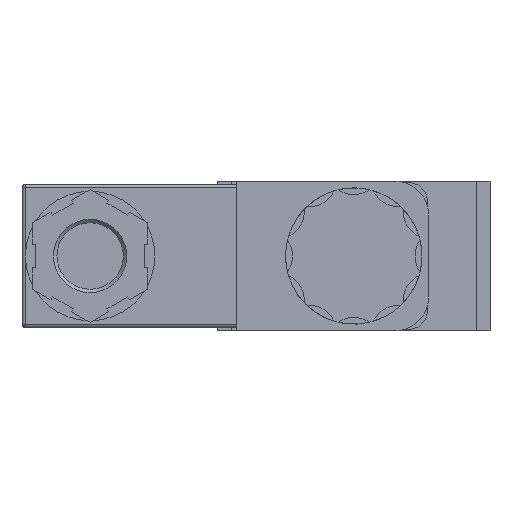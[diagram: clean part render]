
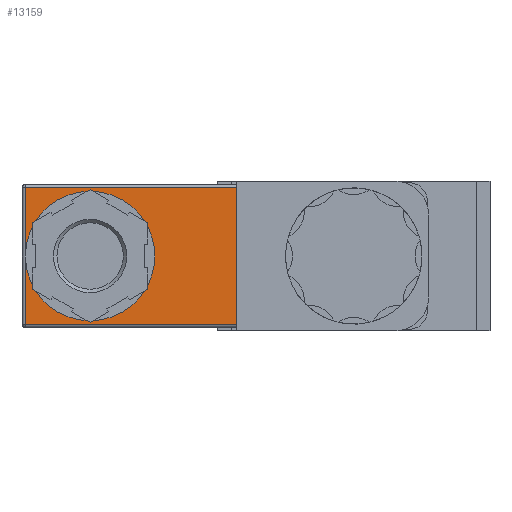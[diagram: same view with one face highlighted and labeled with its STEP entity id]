
A CAD part, left-side view. The second image highlights one B-rep face of the part: STEP entity #13159.
In plain terms, the highlighted planar face has unit normal (-1, 0, 0).
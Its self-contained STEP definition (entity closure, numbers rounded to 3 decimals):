
#419=CIRCLE('',#13739,9.5);
#817=ORIENTED_EDGE('',*,*,#3295,.T.);
#818=ORIENTED_EDGE('',*,*,#3410,.T.);
#819=ORIENTED_EDGE('',*,*,#3411,.T.);
#820=ORIENTED_EDGE('',*,*,#3382,.F.);
#821=ORIENTED_EDGE('',*,*,#3412,.T.);
#822=ORIENTED_EDGE('',*,*,#3413,.T.);
#3295=EDGE_CURVE('',#4613,#4612,#5532,.T.);
#3382=EDGE_CURVE('',#4684,#4684,#419,.F.);
#3410=EDGE_CURVE('',#4612,#4705,#5634,.F.);
#3411=EDGE_CURVE('',#4705,#4684,#5635,.F.);
#3412=EDGE_CURVE('',#4684,#4706,#5636,.F.);
#3413=EDGE_CURVE('',#4706,#4613,#5637,.F.);
#4612=VERTEX_POINT('',#16839);
#4613=VERTEX_POINT('',#16841);
#4684=VERTEX_POINT('',#17013);
#4705=VERTEX_POINT('',#17075);
#4706=VERTEX_POINT('',#17078);
#5532=LINE('',#16840,#6451);
#5634=LINE('',#17074,#6553);
#5635=LINE('',#17076,#6554);
#5636=LINE('',#17077,#6555);
#5637=LINE('',#17079,#6556);
#6451=VECTOR('',#14465,1000.);
#6553=VECTOR('',#14647,1000.);
#6554=VECTOR('',#14648,1000.);
#6555=VECTOR('',#14649,1000.);
#6556=VECTOR('',#14650,1000.);
#7390=EDGE_LOOP('',(#817,#818,#819,#820,#821,#822));
#8150=FACE_BOUND('',#7390,.T.);
#8897=PLANE('',#13758);
#13159=ADVANCED_FACE('',(#8150),#8897,.F.);
#13739=AXIS2_PLACEMENT_3D('',#17012,#14586,#14587);
#13758=AXIS2_PLACEMENT_3D('',#17073,#14645,#14646);
#14465=DIRECTION('',(0.,0.,1.));
#14586=DIRECTION('',(1.,0.,0.));
#14587=DIRECTION('',(0.,0.,1.));
#14645=DIRECTION('',(1.,0.,0.));
#14646=DIRECTION('',(0.,0.,1.));
#14647=DIRECTION('',(0.,-1.,0.));
#14648=DIRECTION('',(0.,0.,1.));
#14649=DIRECTION('',(0.,0.,1.));
#14650=DIRECTION('',(0.,1.,0.));
#16839=CARTESIAN_POINT('',(-115.,17.2,10.));
#16840=CARTESIAN_POINT('',(-115.,17.2,-7.5));
#16841=CARTESIAN_POINT('',(-115.,17.2,-10.));
#17012=CARTESIAN_POINT('',(-115.,38.7,0.));
#17013=CARTESIAN_POINT('',(-115.,48.2,0.));
#17073=CARTESIAN_POINT('',(-115.,45.7,6.245));
#17074=CARTESIAN_POINT('',(-115.,45.7,10.));
#17075=CARTESIAN_POINT('',(-115.,48.2,10.));
#17076=CARTESIAN_POINT('',(-115.,48.2,-10.5));
#17077=CARTESIAN_POINT('',(-115.,48.2,-10.5));
#17078=CARTESIAN_POINT('',(-115.,48.2,-10.));
#17079=CARTESIAN_POINT('',(-115.,45.7,-10.));
